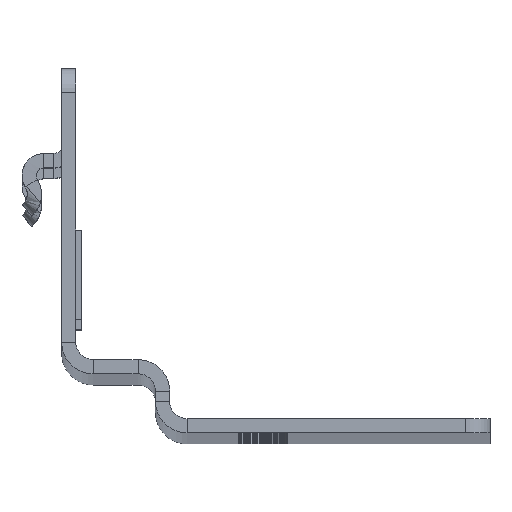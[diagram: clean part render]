
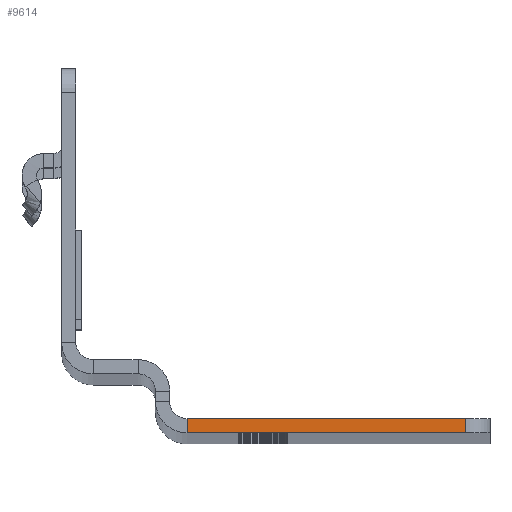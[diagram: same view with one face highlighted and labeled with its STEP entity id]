
A CAD part, top view. The second image highlights one B-rep face of the part: STEP entity #9614.
In plain terms, the highlighted planar face has unit normal (0, 0, 1) as drawn and (-1, 0, 0) by its records, which use the part's own axes.
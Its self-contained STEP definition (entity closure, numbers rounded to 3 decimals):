
#135 = CARTESIAN_POINT ( 'NONE',  ( -412.5, 11.659, -8.026 ) ) ;
#438 = LINE ( 'NONE', #9672, #2261 ) ;
#860 = DIRECTION ( 'NONE',  ( 0., 0., -1. ) ) ;
#1027 = DIRECTION ( 'NONE',  ( 1., 0., 0. ) ) ;
#1189 = CARTESIAN_POINT ( 'NONE',  ( -412.5, 1.829, 43.104 ) ) ;
#1534 = ORIENTED_EDGE ( 'NONE', *, *, #4314, .T. ) ;
#1639 = VECTOR ( 'NONE', #11105, 1000. ) ;
#1713 = LINE ( 'NONE', #8170, #6109 ) ;
#1748 = CARTESIAN_POINT ( 'NONE',  ( -412.5, 1.829, 4.064 ) ) ;
#2261 = VECTOR ( 'NONE', #860, 1000. ) ;
#3665 = PLANE ( 'NONE',  #10813 ) ;
#3690 = ORIENTED_EDGE ( 'NONE', *, *, #8147, .T. ) ;
#3821 = VERTEX_POINT ( 'NONE', #5873 ) ;
#4314 = EDGE_CURVE ( 'NONE', #10912, #5540, #1713, .T. ) ;
#4741 = DIRECTION ( 'NONE',  ( 0., 0., -1. ) ) ;
#4969 = EDGE_CURVE ( 'NONE', #10956, #5540, #438, .T. ) ;
#4979 = FACE_OUTER_BOUND ( 'NONE', #9068, .T. ) ;
#5398 = CARTESIAN_POINT ( 'NONE',  ( -412.5, 0., 4.064 ) ) ;
#5540 = VERTEX_POINT ( 'NONE', #5398 ) ;
#5873 = CARTESIAN_POINT ( 'NONE',  ( -412.5, 1.829, 39.929 ) ) ;
#6038 = ORIENTED_EDGE ( 'NONE', *, *, #4969, .F. ) ;
#6109 = VECTOR ( 'NONE', #9048, 1000. ) ;
#6391 = ORIENTED_EDGE ( 'NONE', *, *, #10720, .T. ) ;
#7217 = DIRECTION ( 'NONE',  ( 0., 0., -1. ) ) ;
#8147 = EDGE_CURVE ( 'NONE', #3821, #10912, #8772, .T. ) ;
#8170 = CARTESIAN_POINT ( 'NONE',  ( -412.5, 1.829, 4.064 ) ) ;
#8491 = VECTOR ( 'NONE', #4741, 1000. ) ;
#8652 = LINE ( 'NONE', #11069, #1639 ) ;
#8772 = LINE ( 'NONE', #1189, #8491 ) ;
#9048 = DIRECTION ( 'NONE',  ( 0., -1., 0. ) ) ;
#9068 = EDGE_LOOP ( 'NONE', ( #6038, #6391, #3690, #1534 ) ) ;
#9614 = ADVANCED_FACE ( 'NONE', ( #4979 ), #3665, .F. ) ;
#9672 = CARTESIAN_POINT ( 'NONE',  ( -412.5, 0., 43.104 ) ) ;
#10720 = EDGE_CURVE ( 'NONE', #10956, #3821, #8652, .T. ) ;
#10733 = CARTESIAN_POINT ( 'NONE',  ( -412.5, 0., 39.929 ) ) ;
#10813 = AXIS2_PLACEMENT_3D ( 'NONE', #135, #1027, #7217 ) ;
#10912 = VERTEX_POINT ( 'NONE', #1748 ) ;
#10956 = VERTEX_POINT ( 'NONE', #10733 ) ;
#11069 = CARTESIAN_POINT ( 'NONE',  ( -412.5, 1.829, 39.929 ) ) ;
#11105 = DIRECTION ( 'NONE',  ( 0., 1., 0. ) ) ;
